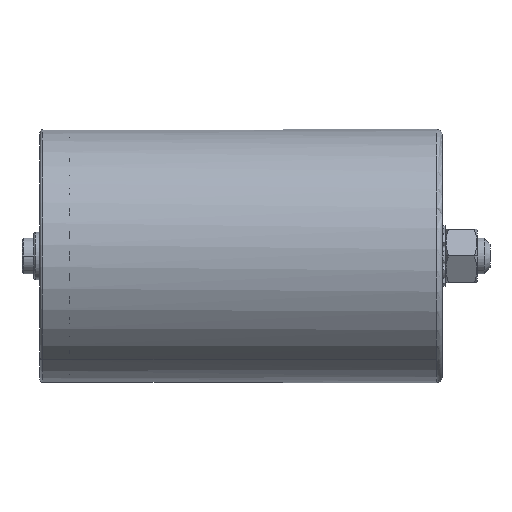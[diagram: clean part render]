
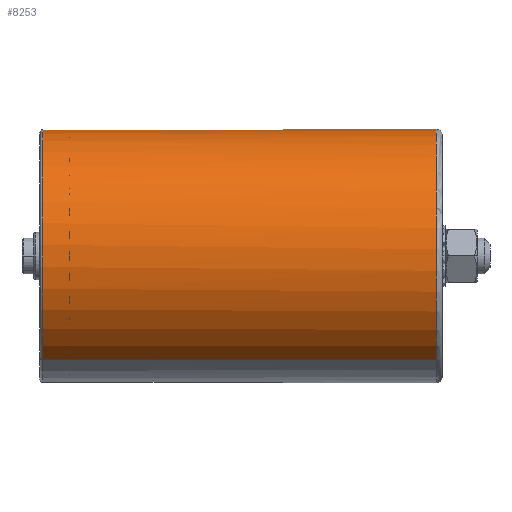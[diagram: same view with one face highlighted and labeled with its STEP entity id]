
A CAD part, left-side view. The second image highlights one B-rep face of the part: STEP entity #8253.
In plain terms, the highlighted cylindrical face has radius 42.5 mm (diameter 85 mm), a partial arc.
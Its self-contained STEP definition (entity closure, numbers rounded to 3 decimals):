
#88 = CARTESIAN_POINT ( 'NONE',  ( -5.777, -127.544, 123.1 ) ) ;
#284 = CARTESIAN_POINT ( 'NONE',  ( -5.777, -4.544, 80.6 ) ) ;
#408 = AXIS2_PLACEMENT_3D ( 'NONE', #284, #2868, #6174 ) ;
#732 = CYLINDRICAL_SURFACE ( 'NONE', #408, 42.5 ) ;
#898 = LINE ( 'NONE', #3210, #2739 ) ;
#1075 = CARTESIAN_POINT ( 'NONE',  ( 18.6, -4.544, 115.414 ) ) ;
#1094 = DIRECTION ( 'NONE',  ( 0., 1., 0. ) ) ;
#1846 = ORIENTED_EDGE ( 'NONE', *, *, #4017, .F. ) ;
#2052 = DIRECTION ( 'NONE',  ( 0., 0., -1. ) ) ;
#2261 = EDGE_CURVE ( 'NONE', #7029, #4673, #5826, .T. ) ;
#2380 = EDGE_CURVE ( 'NONE', #4555, #8194, #6637, .T. ) ;
#2395 = LINE ( 'NONE', #1075, #4308 ) ;
#2739 = VECTOR ( 'NONE', #7148, 1000. ) ;
#2802 = AXIS2_PLACEMENT_3D ( 'NONE', #4996, #1094, #5660 ) ;
#2868 = DIRECTION ( 'NONE',  ( 0., 1., 0. ) ) ;
#3026 = DIRECTION ( 'NONE',  ( 0.574, 0., 0.819 ) ) ;
#3210 = CARTESIAN_POINT ( 'NONE',  ( -30.154, -4.544, 45.786 ) ) ;
#3401 = AXIS2_PLACEMENT_3D ( 'NONE', #4881, #4197, #3026 ) ;
#3579 = EDGE_LOOP ( 'NONE', ( #7205, #4022, #7219, #1846, #3591 ) ) ;
#3591 = ORIENTED_EDGE ( 'NONE', *, *, #2380, .T. ) ;
#3632 = CARTESIAN_POINT ( 'NONE',  ( 18.6, 4.456, 115.414 ) ) ;
#4017 = EDGE_CURVE ( 'NONE', #4555, #4673, #898, .T. ) ;
#4022 = ORIENTED_EDGE ( 'NONE', *, *, #7944, .T. ) ;
#4197 = DIRECTION ( 'NONE',  ( 0., -1., 0. ) ) ;
#4308 = VECTOR ( 'NONE', #5088, 1000. ) ;
#4555 = VERTEX_POINT ( 'NONE', #6491 ) ;
#4673 = VERTEX_POINT ( 'NONE', #4750 ) ;
#4750 = CARTESIAN_POINT ( 'NONE',  ( -30.154, 4.456, 45.786 ) ) ;
#4881 = CARTESIAN_POINT ( 'NONE',  ( -5.777, 4.456, 80.6 ) ) ;
#4996 = CARTESIAN_POINT ( 'NONE',  ( -5.777, -127.544, 80.6 ) ) ;
#5088 = DIRECTION ( 'NONE',  ( 0., 1., 0. ) ) ;
#5228 = CARTESIAN_POINT ( 'NONE',  ( 18.6, -127.544, 115.414 ) ) ;
#5307 = FACE_OUTER_BOUND ( 'NONE', #3579, .T. ) ;
#5643 = CIRCLE ( 'NONE', #6178, 42.5 ) ;
#5660 = DIRECTION ( 'NONE',  ( 0., 0., -1. ) ) ;
#5826 = CIRCLE ( 'NONE', #3401, 42.5 ) ;
#5955 = DIRECTION ( 'NONE',  ( 0., 1., 0. ) ) ;
#5986 = CARTESIAN_POINT ( 'NONE',  ( -5.777, -127.544, 80.6 ) ) ;
#6174 = DIRECTION ( 'NONE',  ( -0.574, 0., -0.819 ) ) ;
#6178 = AXIS2_PLACEMENT_3D ( 'NONE', #5986, #5955, #2052 ) ;
#6491 = CARTESIAN_POINT ( 'NONE',  ( -30.154, -127.544, 45.786 ) ) ;
#6637 = CIRCLE ( 'NONE', #2802, 42.5 ) ;
#7029 = VERTEX_POINT ( 'NONE', #3632 ) ;
#7148 = DIRECTION ( 'NONE',  ( 0., 1., 0. ) ) ;
#7194 = VERTEX_POINT ( 'NONE', #5228 ) ;
#7205 = ORIENTED_EDGE ( 'NONE', *, *, #7300, .T. ) ;
#7219 = ORIENTED_EDGE ( 'NONE', *, *, #2261, .T. ) ;
#7300 = EDGE_CURVE ( 'NONE', #8194, #7194, #5643, .T. ) ;
#7944 = EDGE_CURVE ( 'NONE', #7194, #7029, #2395, .T. ) ;
#8194 = VERTEX_POINT ( 'NONE', #88 ) ;
#8253 = ADVANCED_FACE ( 'NONE', ( #5307 ), #732, .T. ) ;
